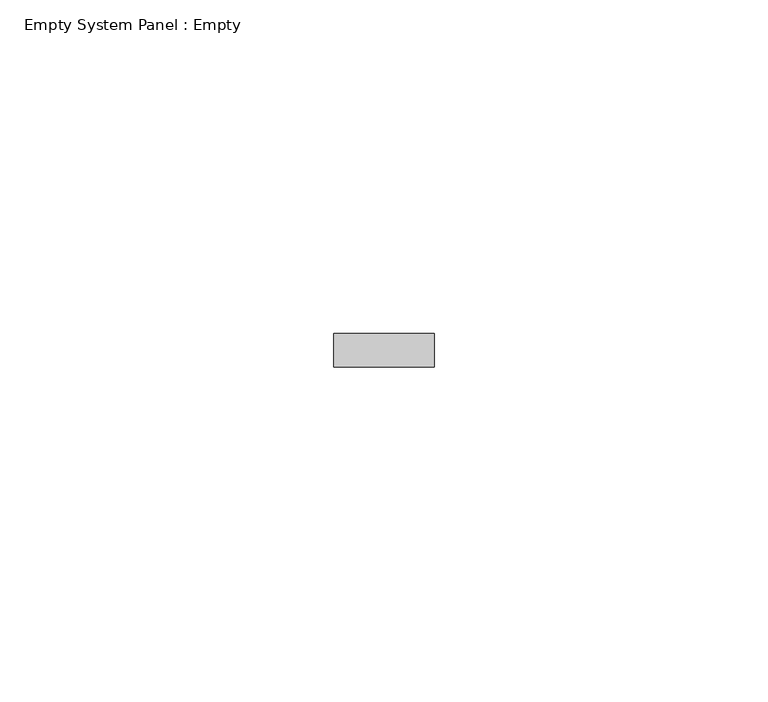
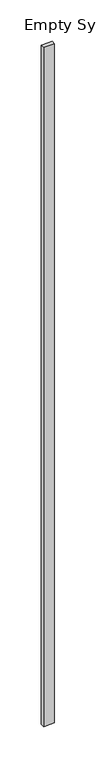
"""IFC4 building model written with IfcOpenShell, lengths in millimetres: plate geometry, Empty System Panel : Empty."""

from ifc_helpers import new_model, si_unit, origin, origin_with_axes, place, context, project, spatial, polyline, outline, extrude, source, transform, mapped, element, save


def empty_system_panel_empty_0b05d00b(model_context):
    return source(origin(), model_context, "Body", "SweptSolid", [
        extrude(outline(polyline([(7.4999998, 97.5), (-7.4999998, 97.5), (-7.4999998, 102.5), (7.4999998, 102.5), (7.4999998, 97.5)])), origin_with_axes(), (0.0, 0.0, 1.0), 1000.0),
    ])


if __name__ == "__main__":
    model = new_model("IFC4")
    model_context = context("Model", 3, world=origin())
    ifc_project = project(units=[si_unit("LENGTHUNIT", "METRE", prefix="MILLI")], contexts=[model_context])
    site = spatial("IfcSite", under=ifc_project)
    building = spatial("IfcBuilding", under=site)
    placement = place(None, origin())
    empty_system_panel_empty_shape = empty_system_panel_empty_0b05d00b(model_context)
    element("IfcPlate", 1, ObjectType="Empty System Panel : Empty", at=placement, inside=building, context=model_context, shape_type="MappedRepresentation", body=[
        mapped(empty_system_panel_empty_shape, transform((0.0, 0.0, 0.0), x_axis=(1.0, 0.0, 0.0), y_axis=(0.0, 1.0, 0.0), z_axis=(0.0, 0.0, 1.0))),
    ])
    save(model, "model.ifc")
